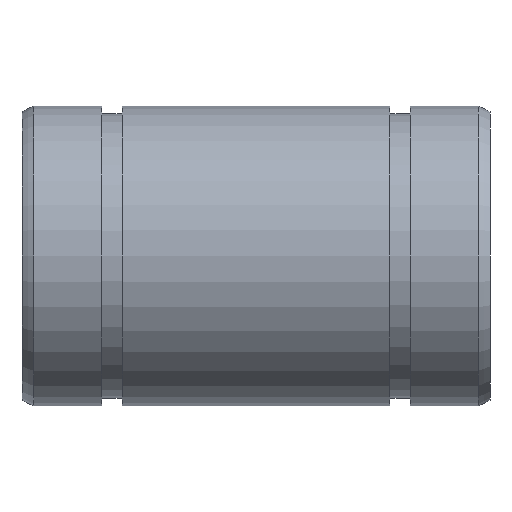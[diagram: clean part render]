
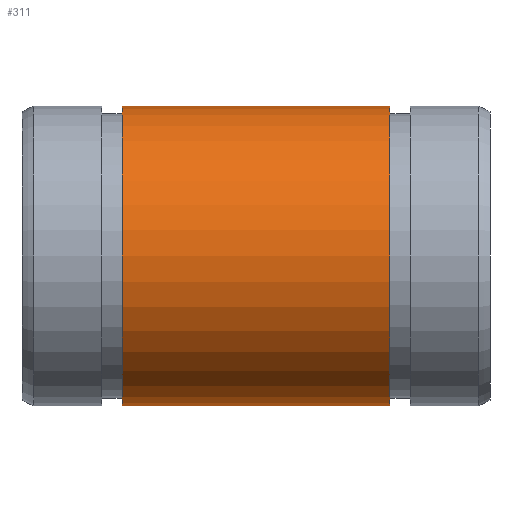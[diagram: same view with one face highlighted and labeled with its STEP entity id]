
A CAD part, front view. The second image highlights one B-rep face of the part: STEP entity #311.
In plain terms, the highlighted cylindrical face has radius 8 mm (diameter 16 mm), a full revolution.
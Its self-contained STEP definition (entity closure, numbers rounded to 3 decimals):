
#277=CARTESIAN_POINT('',(19.65,0.0,8.));
#278=VERTEX_POINT('',#277);
#279=CARTESIAN_POINT('',(19.65,0.0,0.));
#280=DIRECTION('',(-1.0,0.0,0.0));
#281=DIRECTION('',(0.0,0.0,1.0));
#282=AXIS2_PLACEMENT_3D('',#279,#280,#281);
#283=CIRCLE('',#282,8.);
#284=EDGE_CURVE('',#278,#278,#283,.T.);
#292=CARTESIAN_POINT('',(12.5,0.0,0.));
#293=DIRECTION('',(-1.0,0.0,0.0));
#294=DIRECTION('',(0.0,0.0,1.0));
#295=AXIS2_PLACEMENT_3D('',#292,#293,#294);
#296=CYLINDRICAL_SURFACE('',#295,8.);
#297=CARTESIAN_POINT('',(5.35,0.0,8.));
#298=VERTEX_POINT('',#297);
#299=CARTESIAN_POINT('',(5.35,0.0,0.));
#300=DIRECTION('',(-1.0,0.0,0.0));
#301=DIRECTION('',(0.0,0.0,1.0));
#302=AXIS2_PLACEMENT_3D('',#299,#300,#301);
#303=CIRCLE('',#302,8.0);
#304=EDGE_CURVE('',#298,#298,#303,.T.);
#305=ORIENTED_EDGE('',*,*,#304,.F.);
#306=EDGE_LOOP('',(#305));
#307=FACE_OUTER_BOUND('',#306,.T.);
#308=ORIENTED_EDGE('',*,*,#284,.T.);
#309=EDGE_LOOP('',(#308));
#310=FACE_BOUND('',#309,.T.);
#311=ADVANCED_FACE('',(#307,#310),#296,.T.);
